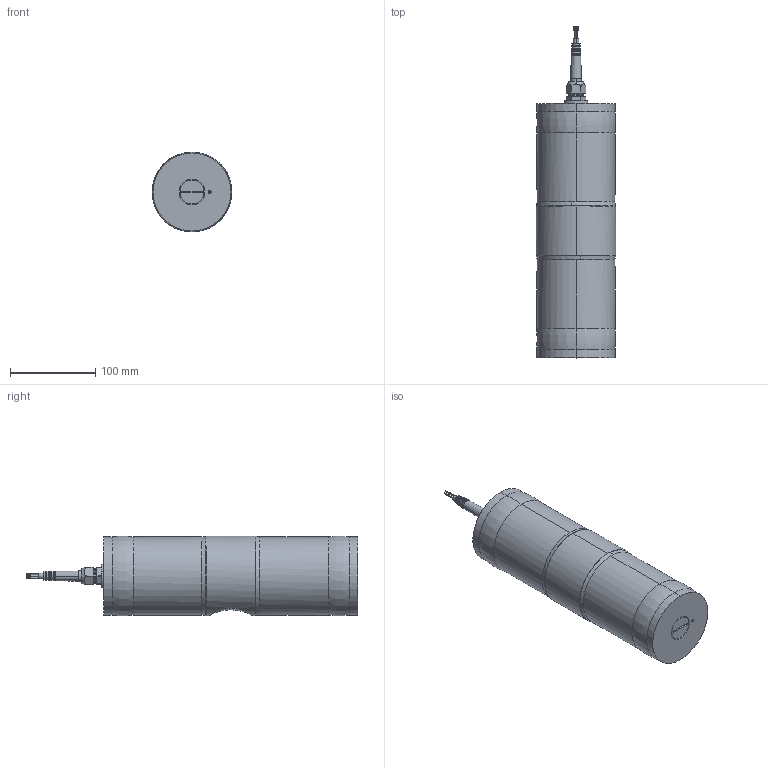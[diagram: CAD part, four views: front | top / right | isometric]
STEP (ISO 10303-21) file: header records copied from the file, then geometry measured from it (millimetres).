
FILE_DESCRIPTION (( 'STEP AP214' ), '1' );
FILE_NAME ('KDH-1 200 klb Load Cell.STEP', '2021-03-12T12:45:49', ( '' ), ( '' ), 'SwSTEP 2.0', 'SolidWorks 2021', '' );
FILE_SCHEMA (( 'AUTOMOTIVE_DESIGN' ));
Length unit declared in the file: millimetre
Products named in the file (6): Kabel; KDH-1 200 klb Load Cell; 503742r0; M26x1.5 - Pg9 - 6369829; Pg9 - 1009.52 6_2_14; M26x1.5 - Lock - 600490r1
Assembly tree (5 placements, depth 2):
  KDH-1 200 klb Load Cell
    503742r0
    M26x1.5 - Pg9 - 6369829
    Pg9 - 1009.52 6_2_14
    M26x1.5 - Lock - 600490r1
    Kabel
Bounding box: 93.47 x 389.43 x 93.47 mm (x, y, z)
Volume: 1984810.3 mm3; surface area: 116292 mm2
Topology: 5 solids, 8 shells, 260 faces, 582 edges, 358 vertices
Faces by surface type: cylinder 96, plane 55, cone 55, bspline 34, torus 20
Entity records: 11369 total; most frequent: CARTESIAN_POINT 4500, DIRECTION 1304, ORIENTED_EDGE 1148, EDGE_CURVE 574, AXIS2_PLACEMENT_3D 558, VERTEX_POINT 358, CIRCLE 324, EDGE_LOOP 298
